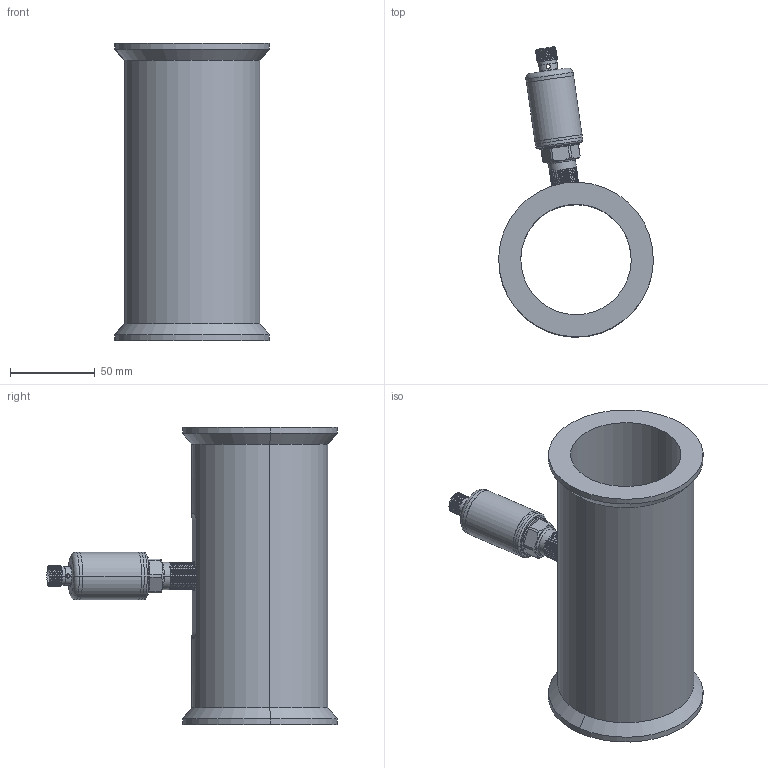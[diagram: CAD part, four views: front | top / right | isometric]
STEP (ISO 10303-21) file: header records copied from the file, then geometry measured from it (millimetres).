
FILE_DESCRIPTION (( 'STEP AP214' ), '1' );
FILE_NAME ('BFW1K65-J.STEP', '2026-05-27T10:01:48', ( '' ), ( '' ), 'SwSTEP 2.0', 'SolidWorks 2023', '' );
FILE_SCHEMA (( 'AUTOMOTIVE_DESIGN' ));
Length unit declared in the file: millimetre
Products named in the file (7): 连接管; DN65卡盘-华东; BFW1K65-J; 压力变送器; 垫片; 壳体; 探头
Assembly tree (6 placements, depth 3):
  BFW1K65-J
    压力变送器
      壳体
      垫片
      连接管
      探头
    DN65卡盘-华东
Bounding box: 90.96 x 170.83 x 175 mm (x, y, z)
Volume: 329452 mm3; surface area: 104758.6 mm2
Topology: 5 solids, 5 shells, 205 faces, 507 edges, 324 vertices
Faces by surface type: cylinder 124, cone 35, plane 34, torus 8, bspline 4
Entity records: 9876 total; most frequent: CARTESIAN_POINT 5060, ORIENTED_EDGE 1014, DIRECTION 941, EDGE_CURVE 507, AXIS2_PLACEMENT_3D 379, VERTEX_POINT 324, EDGE_LOOP 235, ADVANCED_FACE 205
